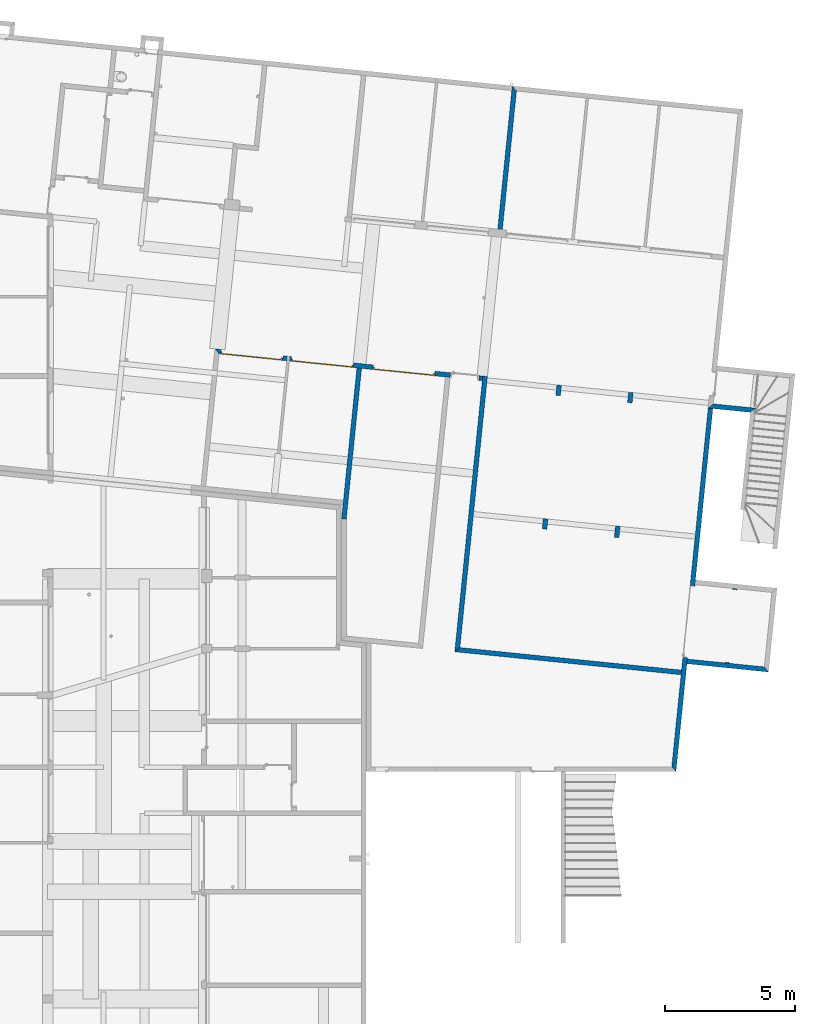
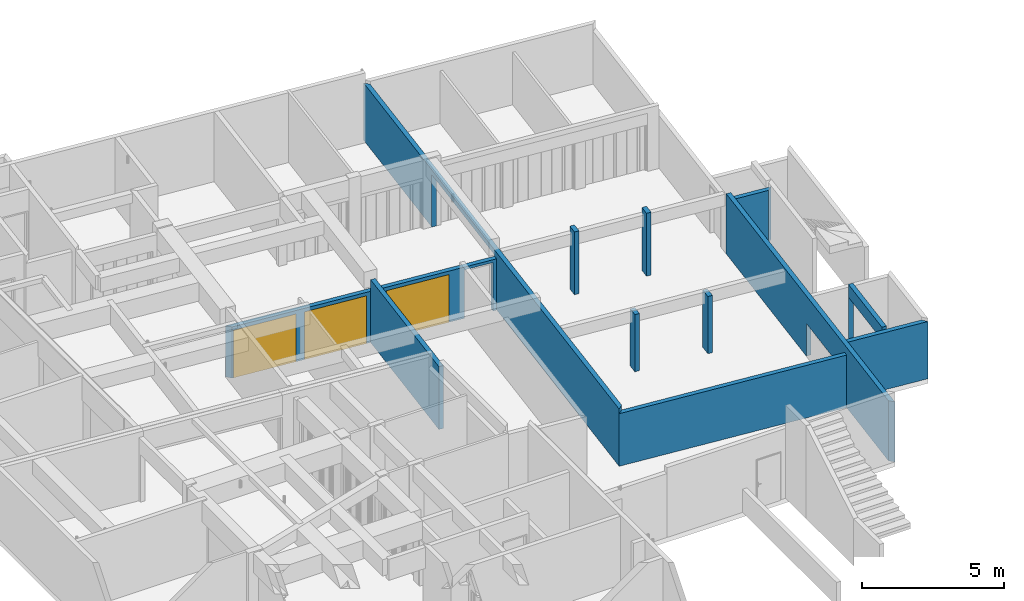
# One storey, part 16 of 41: 12 walls, 3 doors, 7 openings.
"""IFC2X3 building model written with IfcOpenShell, lengths in millimetres."""

from ifc_helpers import new_model, entity, si_unit, converted_unit, derived_unit, money_unit, direction, frame, origin_with_axes, origin_2d_with_axis, place, context, subcontext, project, spatial, polyline, rectangle, outline, extrude, faceted_brep, source, transform, mapped, material, layer, layer_set, layer_usage, type_object, element, fill, save


model = new_model("IFC2X3")

# Units and contexts
model_context = context("Model", 3, precision=0.01, world=origin_with_axes(), true_north=direction((0.0, 1.0)))
body_context = subcontext(model_context, "Body", "Model", "MODEL_VIEW")
ifc_project = project(units=[si_unit("LENGTHUNIT", "METRE", prefix="MILLI"), si_unit("AREAUNIT", "SQUARE_METRE"), si_unit("VOLUMEUNIT", "CUBIC_METRE"), converted_unit("PLANEANGLEUNIT", "DEGREE", entity("IfcPlaneAngleMeasure", 0.0174532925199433), si_unit("PLANEANGLEUNIT", "RADIAN"), dimensions=[0, 0, 0, 0, 0, 0, 0]), money_unit("USD"), converted_unit("TIMEUNIT", "Year", entity("IfcTimeMeasure", 31557600.0), si_unit("TIMEUNIT", "SECOND"), dimensions=[0, 0, 1, 0, 0, 0, 0]), si_unit("MASSUNIT", "GRAM", prefix="KILO"), si_unit("THERMODYNAMICTEMPERATUREUNIT", "DEGREE_CELSIUS"), si_unit("LUMINOUSINTENSITYUNIT", "LUMEN"), si_unit("ENERGYUNIT", "JOULE", prefix="MEGA"), derived_unit("THERMALCONDUCTANCEUNIT", [(si_unit("POWERUNIT", "WATT"), 1), (si_unit("LENGTHUNIT", "METRE"), -1), (si_unit("THERMODYNAMICTEMPERATUREUNIT", "KELVIN"), -1)]), derived_unit("SPECIFICHEATCAPACITYUNIT", [(si_unit("ENERGYUNIT", "JOULE"), 1), (si_unit("MASSUNIT", "GRAM", prefix="KILO"), -1), (si_unit("THERMODYNAMICTEMPERATUREUNIT", "KELVIN"), -1)]), derived_unit("MASSDENSITYUNIT", [(si_unit("MASSUNIT", "GRAM", prefix="KILO"), 1), (si_unit("VOLUMEUNIT", "CUBIC_METRE"), -1)])], contexts=[model_context])

# Site, building, storey
site_placement = place(None, origin_with_axes())
site = spatial("IfcSite", under=ifc_project, at=site_placement, Name="Site", CompositionType="ELEMENT")
building_placement = place(site_placement, origin_with_axes())
building = spatial("IfcBuilding", under=site, at=building_placement, Name="Bâtiment", CompositionType="ELEMENT")
storey_placement = place(building_placement, origin_with_axes())
storey = spatial("IfcBuildingStorey", under=building, at=storey_placement, Name="sousol", CompositionType="ELEMENT", Elevation=0.0)

# Walls
ifc_material = material(Name="Parpaing 314940890")
ifc_layer = layer(ifc_material, 180.0, ventilated="UNKNOWN")
ifc_layer_set = layer_set([ifc_layer], Name="Beton  18 0170347028")
ifc_layer_usage_1 = layer_usage(ifc_layer_set, "AXIS2", "NEGATIVE", 90.0)
wall_type = type_object("IfcWallType", Name="Beton  18 0170347028 180", PredefinedType="NOTDEFINED")
wall_1_placement = place(storey_placement, frame((2241773.094289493, -618170.938408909, 0.0), z_axis=(0.0, 0.0, 1.0), x_axis=(0.1008361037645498, 0.9949030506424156, 0.0)))
element("IfcWallStandardCase", 1, at=wall_1_placement, inside=storey, type_object=wall_type, material=ifc_layer_usage_1, Name="Mur-132", context=body_context, shape_type="SweptSolid", body=[
    extrude(outline(polyline([(0.0, -90.00000000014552), (399.9999999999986, -90.00000000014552), (400.0000000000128, 89.99999999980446), (0.0, 89.99999999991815), (0.0, -90.00000000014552)])), origin_with_axes(), (0.0, 0.0, 1.0), 2700.0),
])
ifc_layer_usage_2 = layer_usage(ifc_layer_set, "AXIS2", "NEGATIVE", 0.0)
wall_2_placement = place(storey_placement, frame((2243942.273763, -623643.83393361, 0.0), z_axis=(0.0, 0.0, 1.0), x_axis=(0.1008361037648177, 0.9949030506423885, 0.0)))
element("IfcWallStandardCase", 2, at=wall_2_placement, inside=storey, type_object=wall_type, material=ifc_layer_usage_2, Name="Mur-132", context=body_context, shape_type="SweptSolid", body=[
    extrude(outline(polyline([(0.0, -179.99999999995), (442.3270255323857, -179.99999999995), (442.3270255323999, 0.0), (0.0, 0.0), (0.0, -179.99999999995)])), origin_with_axes(), (0.0, 0.0, 1.0), 2459.999999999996),
])

# Wall, openings, doors
ifc_layer_usage_3 = layer_usage(ifc_layer_set, "AXIS2", "POSITIVE", 0.0)
wall_3_placement = place(storey_placement, frame((2239044.524593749, -617438.4547941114, 0.0), z_axis=(0.0, 0.0, 1.0), x_axis=(-0.9948759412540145, 0.1011032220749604, 0.0)))
wall_3 = element("IfcWallStandardCase", 3, at=wall_3_placement, inside=storey, type_object=wall_type, material=ifc_layer_usage_3, Name="Mur-132", context=body_context, shape_type="SweptSolid", body=[
    extrude(outline(polyline([(179.9999999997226, 0.0), (10573.12216969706, 0.0), (10393.12216969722, 179.9999999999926), (179.9999999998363, 179.9999999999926), (179.9999999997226, 0.0)])), origin_with_axes(), (0.0, 0.0, 1.0), 2200.0),
])
opening_1_placement = place(wall_3_placement, frame((6397.227876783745, 0.0, 0.0), z_axis=(0.0, 0.0, 1.0), x_axis=(1.0, 0.0, 0.0)))
opening_1 = element("IfcOpeningElement", 4, at=opening_1_placement, cuts=wall_3, Name="Por-296", context=body_context, shape_type="SweptSolid", body=[
    extrude(rectangle(XDim=2400.000000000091, YDim=2050.0, at=origin_2d_with_axis()), frame((0.0, 180.0000000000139, 1025.0), z_axis=(0.0, -1.0, 0.0), x_axis=(1.0, 0.0, 0.0)), (0.0, 0.0, -1.0), 180.0),
    extrude(rectangle(XDim=2400.000000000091, YDim=2050.0, at=origin_2d_with_axis()), frame((0.0, 179.9999999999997, 1025.0), z_axis=(0.0, 1.0, 0.0), x_axis=(1.0, 0.0, 0.0)), (0.0, 0.0, -1.0), 180.0),
])
opening_2_placement = place(wall_3_placement, frame((9134.602929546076, 0.0, 0.0), z_axis=(0.0, 0.0, 1.0), x_axis=(1.0, 0.0, 0.0)))
opening_2 = element("IfcOpeningElement", 5, at=opening_2_placement, cuts=wall_3, Name="Por-296", context=body_context, shape_type="SweptSolid", body=[
    extrude(rectangle(XDim=2399.999999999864, YDim=2050.0, at=origin_2d_with_axis()), frame((1.13686837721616e-10, 180.0000000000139, 1025.0), z_axis=(0.0, -1.0, 0.0), x_axis=(1.0, 0.0, 0.0)), (0.0, 0.0, -1.0), 180.0),
    extrude(rectangle(XDim=2399.999999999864, YDim=2050.0, at=origin_2d_with_axis()), frame((1.13686837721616e-10, 179.9999999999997, 1025.0), z_axis=(0.0, 1.0, 0.0), x_axis=(1.0, 0.0, 0.0)), (0.0, 0.0, -1.0), 180.0),
])
opening_3_placement = place(wall_3_placement, frame((874.9999999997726, 0.0, 0.0), z_axis=(0.0, 0.0, 1.0), x_axis=(1.0, 0.0, 0.0)))
element("IfcOpeningElement", 6, at=opening_3_placement, cuts=wall_3, Name="Por-295", context=body_context, shape_type="SweptSolid", body=[
    extrude(rectangle(XDim=1109.999992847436, YDim=2080.0, at=origin_2d_with_axis()), frame((3.576360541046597e-06, 179.9999999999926, 1040.0), z_axis=(0.0, -1.0, 0.0), x_axis=(-1.0, 0.0, 0.0)), (0.0, 0.0, 1.0), 360.0),
])
opening_4_placement = place(wall_3_placement, frame((3226.390804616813, 0.0, 0.0), z_axis=(0.0, 0.0, 1.0), x_axis=(1.0, 0.0, 0.0)))
opening_4 = element("IfcOpeningElement", 7, at=opening_4_placement, cuts=wall_3, Name="Por-296", context=body_context, shape_type="SweptSolid", body=[
    extrude(rectangle(XDim=2399.999999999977, YDim=2050.0, at=origin_2d_with_axis()), frame((0.0, 179.9999999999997, 1025.0), z_axis=(0.0, -1.0, 0.0), x_axis=(1.0, 0.0, 0.0)), (0.0, 0.0, -1.0), 180.0),
    extrude(rectangle(XDim=2399.999999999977, YDim=2050.0, at=origin_2d_with_axis()), frame((0.0, 179.9999999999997, 1025.0), z_axis=(0.0, 1.0, 0.0), x_axis=(1.0, 0.0, 0.0)), (0.0, 0.0, -1.0), 180.0),
])
door_style = type_object("IfcDoorStyle", Name="P_garage 1", ConstructionType="NOTDEFINED", OperationType="NOTDEFINED", ParameterTakesPrecedence=False, Sizeable=False)
shared_shape = source(origin_with_axes(), body_context, "Body", "Brep", [
    faceted_brep([(1200.0, 0.0, 0.0), (1200.0, -99.99999999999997, 0.0), (1150.0, -99.99999999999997, 0.0), (1150.0, 0.0, 0.0), (1200.0, 0.0, 2050.0), (1200.0, -99.99999999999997, 2050.0), (-1200.0, -99.99999999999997, 2050.0), (-1200.0, -99.99999999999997, 0.0), (-1150.0, -99.99999999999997, 0.0), (-1150.0, -99.99999999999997, 2000.0), (1150.0, -99.99999999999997, 2000.0), (1150.0, 0.0, 2000.0), (-1150.0, 0.0, 2000.0), (-1150.0, 0.0, 0.0), (-1200.0, 0.0, 0.0), (-1200.0, 0.0, 2050.0)], [[[0, 1, 2, 3]], [[4, 5, 1, 0]], [[1, 5, 6, 7, 8, 9, 10, 2]], [[3, 2, 10, 11]], [[0, 3, 11, 12, 13, 14, 15, 4]], [[15, 6, 5, 4]], [[14, 7, 6, 15]], [[13, 8, 7, 14]], [[12, 9, 8, 13]], [[11, 10, 9, 12]]]),
    faceted_brep([(1069.130434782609, -39.99999999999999, 0.0), (1069.130434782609, -39.99999999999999, 2000.0), (1069.130434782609, -26.66666666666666, 2000.0), (1069.130434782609, -26.66666666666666, 0.0), (1150.0, -39.99999999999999, 0.0), (1150.0, -39.99999999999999, 2000.0), (1150.0, -26.66666666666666, 2000.0), (1150.0, -26.66666666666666, 0.0)], [[[0, 1, 2, 3]], [[0, 4, 5, 1]], [[1, 5, 6, 2]], [[3, 2, 6, 7]], [[4, 0, 3, 7]], [[5, 4, 7, 6]]]),
    faceted_brep([(968.2608695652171, -39.99999999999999, 0.0), (968.2608695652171, -39.99999999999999, 2000.0), (968.2608695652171, -26.66666666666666, 2000.0), (968.2608695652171, -26.66666666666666, 0.0), (1049.130434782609, -39.99999999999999, 0.0), (1049.130434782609, -39.99999999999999, 2000.0), (1049.130434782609, -26.66666666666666, 2000.0), (1049.130434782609, -26.66666666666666, 0.0)], [[[0, 1, 2, 3]], [[0, 4, 5, 1]], [[1, 5, 6, 2]], [[3, 2, 6, 7]], [[4, 0, 3, 7]], [[5, 4, 7, 6]]]),
    faceted_brep([(867.3913043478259, -39.99999999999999, 0.0), (867.3913043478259, -39.99999999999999, 2000.0), (867.3913043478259, -26.66666666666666, 2000.0), (867.3913043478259, -26.66666666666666, 0.0), (948.260869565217, -39.99999999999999, 0.0), (948.260869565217, -39.99999999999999, 2000.0), (948.260869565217, -26.66666666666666, 2000.0), (948.260869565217, -26.66666666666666, 0.0)], [[[0, 1, 2, 3]], [[0, 4, 5, 1]], [[1, 5, 6, 2]], [[3, 2, 6, 7]], [[4, 0, 3, 7]], [[5, 4, 7, 6]]]),
    faceted_brep([(766.5217391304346, -39.99999999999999, 0.0), (766.5217391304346, -39.99999999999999, 2000.0), (766.5217391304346, -26.66666666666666, 2000.0), (766.5217391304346, -26.66666666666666, 0.0), (847.3913043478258, -39.99999999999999, 0.0), (847.3913043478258, -39.99999999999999, 2000.0), (847.3913043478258, -26.66666666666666, 2000.0), (847.3913043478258, -26.66666666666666, 0.0)], [[[0, 1, 2, 3]], [[0, 4, 5, 1]], [[1, 5, 6, 2]], [[3, 2, 6, 7]], [[4, 0, 3, 7]], [[5, 4, 7, 6]]]),
    faceted_brep([(665.6521739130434, -39.99999999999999, 0.0), (665.6521739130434, -39.99999999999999, 2000.0), (665.6521739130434, -26.66666666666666, 2000.0), (665.6521739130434, -26.66666666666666, 0.0), (746.5217391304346, -39.99999999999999, 0.0), (746.5217391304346, -39.99999999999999, 2000.0), (746.5217391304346, -26.66666666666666, 2000.0), (746.5217391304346, -26.66666666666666, 0.0)], [[[0, 1, 2, 3]], [[0, 4, 5, 1]], [[1, 5, 6, 2]], [[3, 2, 6, 7]], [[4, 0, 3, 7]], [[5, 4, 7, 6]]]),
    faceted_brep([(564.7826086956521, -39.99999999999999, 0.0), (564.7826086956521, -39.99999999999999, 2000.0), (564.7826086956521, -26.66666666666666, 2000.0), (564.7826086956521, -26.66666666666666, 0.0), (645.6521739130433, -39.99999999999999, 0.0), (645.6521739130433, -39.99999999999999, 2000.0), (645.6521739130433, -26.66666666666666, 2000.0), (645.6521739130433, -26.66666666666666, 0.0)], [[[0, 1, 2, 3]], [[0, 4, 5, 1]], [[1, 5, 6, 2]], [[3, 2, 6, 7]], [[4, 0, 3, 7]], [[5, 4, 7, 6]]]),
    faceted_brep([(463.9130434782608, -39.99999999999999, 0.0), (463.9130434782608, -39.99999999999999, 2000.0), (463.9130434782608, -26.66666666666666, 2000.0), (463.9130434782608, -26.66666666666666, 0.0), (544.782608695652, -39.99999999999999, 0.0), (544.782608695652, -39.99999999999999, 2000.0), (544.782608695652, -26.66666666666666, 2000.0), (544.782608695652, -26.66666666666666, 0.0)], [[[0, 1, 2, 3]], [[0, 4, 5, 1]], [[1, 5, 6, 2]], [[3, 2, 6, 7]], [[4, 0, 3, 7]], [[5, 4, 7, 6]]]),
    faceted_brep([(363.0434782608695, -39.99999999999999, 0.0), (363.0434782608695, -39.99999999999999, 2000.0), (363.0434782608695, -26.66666666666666, 2000.0), (363.0434782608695, -26.66666666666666, 0.0), (443.9130434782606, -39.99999999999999, 0.0), (443.9130434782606, -39.99999999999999, 2000.0), (443.9130434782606, -26.66666666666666, 2000.0), (443.9130434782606, -26.66666666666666, 0.0)], [[[0, 1, 2, 3]], [[0, 4, 5, 1]], [[1, 5, 6, 2]], [[3, 2, 6, 7]], [[4, 0, 3, 7]], [[5, 4, 7, 6]]]),
    faceted_brep([(262.1739130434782, -39.99999999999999, 0.0), (262.1739130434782, -39.99999999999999, 2000.0), (262.1739130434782, -26.66666666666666, 2000.0), (262.1739130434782, -26.66666666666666, 0.0), (343.0434782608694, -39.99999999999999, 0.0), (343.0434782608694, -39.99999999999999, 2000.0), (343.0434782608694, -26.66666666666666, 2000.0), (343.0434782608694, -26.66666666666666, 0.0)], [[[0, 1, 2, 3]], [[0, 4, 5, 1]], [[1, 5, 6, 2]], [[3, 2, 6, 7]], [[4, 0, 3, 7]], [[5, 4, 7, 6]]]),
    faceted_brep([(161.3043478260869, -39.99999999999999, 0.0), (161.3043478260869, -39.99999999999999, 2000.0), (161.3043478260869, -26.66666666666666, 2000.0), (161.3043478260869, -26.66666666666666, 0.0), (242.1739130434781, -39.99999999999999, 0.0), (242.1739130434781, -39.99999999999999, 2000.0), (242.1739130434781, -26.66666666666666, 2000.0), (242.1739130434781, -26.66666666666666, 0.0)], [[[0, 1, 2, 3]], [[0, 4, 5, 1]], [[1, 5, 6, 2]], [[3, 2, 6, 7]], [[4, 0, 3, 7]], [[5, 4, 7, 6]]]),
    faceted_brep([(60.43478260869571, -39.99999999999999, 0.0), (60.43478260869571, -39.99999999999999, 2000.0), (60.43478260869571, -26.66666666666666, 2000.0), (60.43478260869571, -26.66666666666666, 0.0), (141.3043478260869, -39.99999999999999, 0.0), (141.3043478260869, -39.99999999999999, 2000.0), (141.3043478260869, -26.66666666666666, 2000.0), (141.3043478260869, -26.66666666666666, 0.0)], [[[0, 1, 2, 3]], [[0, 4, 5, 1]], [[1, 5, 6, 2]], [[3, 2, 6, 7]], [[4, 0, 3, 7]], [[5, 4, 7, 6]]]),
    faceted_brep([(-40.43478260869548, -39.99999999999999, 0.0), (-40.43478260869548, -39.99999999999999, 2000.0), (-40.43478260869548, -26.66666666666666, 2000.0), (-40.43478260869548, -26.66666666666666, 0.0), (40.4347826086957, -39.99999999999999, 0.0), (40.4347826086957, -39.99999999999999, 2000.0), (40.4347826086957, -26.66666666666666, 2000.0), (40.4347826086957, -26.66666666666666, 0.0)], [[[0, 1, 2, 3]], [[0, 4, 5, 1]], [[1, 5, 6, 2]], [[3, 2, 6, 7]], [[4, 0, 3, 7]], [[5, 4, 7, 6]]]),
    faceted_brep([(-141.3043478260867, -39.99999999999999, 0.0), (-141.3043478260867, -39.99999999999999, 2000.0), (-141.3043478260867, -26.66666666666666, 2000.0), (-141.3043478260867, -26.66666666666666, 0.0), (-60.43478260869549, -39.99999999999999, 0.0), (-60.43478260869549, -39.99999999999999, 2000.0), (-60.43478260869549, -26.66666666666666, 2000.0), (-60.43478260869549, -26.66666666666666, 0.0)], [[[0, 1, 2, 3]], [[0, 4, 5, 1]], [[1, 5, 6, 2]], [[3, 2, 6, 7]], [[4, 0, 3, 7]], [[5, 4, 7, 6]]]),
    faceted_brep([(-242.1739130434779, -39.99999999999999, 0.0), (-242.1739130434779, -39.99999999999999, 2000.0), (-242.1739130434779, -26.66666666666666, 2000.0), (-242.1739130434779, -26.66666666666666, 0.0), (-161.3043478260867, -39.99999999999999, 0.0), (-161.3043478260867, -39.99999999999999, 2000.0), (-161.3043478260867, -26.66666666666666, 2000.0), (-161.3043478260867, -26.66666666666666, 0.0)], [[[0, 1, 2, 3]], [[0, 4, 5, 1]], [[1, 5, 6, 2]], [[3, 2, 6, 7]], [[4, 0, 3, 7]], [[5, 4, 7, 6]]]),
    faceted_brep([(-343.0434782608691, -39.99999999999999, 0.0), (-343.0434782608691, -39.99999999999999, 2000.0), (-343.0434782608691, -26.66666666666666, 2000.0), (-343.0434782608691, -26.66666666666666, 0.0), (-262.1739130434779, -39.99999999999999, 0.0), (-262.1739130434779, -39.99999999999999, 2000.0), (-262.1739130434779, -26.66666666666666, 2000.0), (-262.1739130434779, -26.66666666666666, 0.0)], [[[0, 1, 2, 3]], [[0, 4, 5, 1]], [[1, 5, 6, 2]], [[3, 2, 6, 7]], [[4, 0, 3, 7]], [[5, 4, 7, 6]]]),
    faceted_brep([(-443.9130434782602, -39.99999999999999, 0.0), (-443.9130434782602, -39.99999999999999, 2000.0), (-443.9130434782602, -26.66666666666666, 2000.0), (-443.9130434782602, -26.66666666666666, 0.0), (-363.0434782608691, -39.99999999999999, 0.0), (-363.0434782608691, -39.99999999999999, 2000.0), (-363.0434782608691, -26.66666666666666, 2000.0), (-363.0434782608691, -26.66666666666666, 0.0)], [[[0, 1, 2, 3]], [[0, 4, 5, 1]], [[1, 5, 6, 2]], [[3, 2, 6, 7]], [[4, 0, 3, 7]], [[5, 4, 7, 6]]]),
    faceted_brep([(-544.7826086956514, -39.99999999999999, 0.0), (-544.7826086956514, -39.99999999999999, 2000.0), (-544.7826086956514, -26.66666666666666, 2000.0), (-544.7826086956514, -26.66666666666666, 0.0), (-463.9130434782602, -39.99999999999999, 0.0), (-463.9130434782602, -39.99999999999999, 2000.0), (-463.9130434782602, -26.66666666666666, 2000.0), (-463.9130434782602, -26.66666666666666, 0.0)], [[[0, 1, 2, 3]], [[0, 4, 5, 1]], [[1, 5, 6, 2]], [[3, 2, 6, 7]], [[4, 0, 3, 7]], [[5, 4, 7, 6]]]),
    faceted_brep([(-645.6521739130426, -39.99999999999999, 0.0), (-645.6521739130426, -39.99999999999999, 2000.0), (-645.6521739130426, -26.66666666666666, 2000.0), (-645.6521739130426, -26.66666666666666, 0.0), (-564.7826086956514, -39.99999999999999, 0.0), (-564.7826086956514, -39.99999999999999, 2000.0), (-564.7826086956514, -26.66666666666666, 2000.0), (-564.7826086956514, -26.66666666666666, 0.0)], [[[0, 1, 2, 3]], [[0, 4, 5, 1]], [[1, 5, 6, 2]], [[3, 2, 6, 7]], [[4, 0, 3, 7]], [[5, 4, 7, 6]]]),
    faceted_brep([(-746.5217391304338, -39.99999999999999, 0.0), (-746.5217391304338, -39.99999999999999, 2000.0), (-746.5217391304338, -26.66666666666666, 2000.0), (-746.5217391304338, -26.66666666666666, 0.0), (-665.6521739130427, -39.99999999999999, 0.0), (-665.6521739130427, -39.99999999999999, 2000.0), (-665.6521739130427, -26.66666666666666, 2000.0), (-665.6521739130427, -26.66666666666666, 0.0)], [[[0, 1, 2, 3]], [[0, 4, 5, 1]], [[1, 5, 6, 2]], [[3, 2, 6, 7]], [[4, 0, 3, 7]], [[5, 4, 7, 6]]]),
    faceted_brep([(-847.391304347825, -39.99999999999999, 0.0), (-847.391304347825, -39.99999999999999, 2000.0), (-847.391304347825, -26.66666666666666, 2000.0), (-847.391304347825, -26.66666666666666, 0.0), (-766.5217391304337, -39.99999999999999, 0.0), (-766.5217391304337, -39.99999999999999, 2000.0), (-766.5217391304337, -26.66666666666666, 2000.0), (-766.5217391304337, -26.66666666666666, 0.0)], [[[0, 1, 2, 3]], [[0, 4, 5, 1]], [[1, 5, 6, 2]], [[3, 2, 6, 7]], [[4, 0, 3, 7]], [[5, 4, 7, 6]]]),
    faceted_brep([(-948.2608695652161, -39.99999999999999, 0.0), (-948.2608695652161, -39.99999999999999, 2000.0), (-948.2608695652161, -26.66666666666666, 2000.0), (-948.2608695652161, -26.66666666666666, 0.0), (-867.391304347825, -39.99999999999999, 0.0), (-867.391304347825, -39.99999999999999, 2000.0), (-867.391304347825, -26.66666666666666, 2000.0), (-867.391304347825, -26.66666666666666, 0.0)], [[[0, 1, 2, 3]], [[0, 4, 5, 1]], [[1, 5, 6, 2]], [[3, 2, 6, 7]], [[4, 0, 3, 7]], [[5, 4, 7, 6]]]),
    faceted_brep([(-1049.130434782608, -39.99999999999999, 0.0), (-1049.130434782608, -39.99999999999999, 2000.0), (-1049.130434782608, -26.66666666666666, 2000.0), (-1049.130434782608, -26.66666666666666, 0.0), (-968.2608695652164, -39.99999999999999, 0.0), (-968.2608695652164, -39.99999999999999, 2000.0), (-968.2608695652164, -26.66666666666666, 2000.0), (-968.2608695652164, -26.66666666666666, 0.0)], [[[0, 1, 2, 3]], [[0, 4, 5, 1]], [[1, 5, 6, 2]], [[3, 2, 6, 7]], [[4, 0, 3, 7]], [[5, 4, 7, 6]]]),
    faceted_brep([(-1149.999999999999, -39.99999999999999, 0.0), (-1149.999999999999, -39.99999999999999, 2000.0), (-1149.999999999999, -26.66666666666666, 2000.0), (-1149.999999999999, -26.66666666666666, 0.0), (-1069.130434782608, -39.99999999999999, 0.0), (-1069.130434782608, -39.99999999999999, 2000.0), (-1069.130434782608, -26.66666666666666, 2000.0), (-1069.130434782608, -26.66666666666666, 0.0)], [[[0, 1, 2, 3]], [[0, 4, 5, 1]], [[1, 5, 6, 2]], [[3, 2, 6, 7]], [[4, 0, 3, 7]], [[5, 4, 7, 6]]]),
    faceted_brep([(1150.0, -26.66666666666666, 0.0), (-1150.0, -26.66666666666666, 0.0), (-1150.0, 0.0, 0.0), (1150.0, 0.0, 0.0), (1150.0, -26.66666666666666, 2000.0), (-1150.0, -26.66666666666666, 2000.0), (-1150.0, 0.0, 2000.0), (1150.0, 0.0, 2000.0)], [[[0, 1, 2, 3]], [[0, 4, 5, 1]], [[1, 5, 6, 2]], [[3, 2, 6, 7]], [[4, 0, 3, 7]], [[5, 4, 7, 6]]]),
])
door_1_placement = place(opening_2_placement, frame((-1199.999999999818, 0.0, 0.0), z_axis=(0.0, 0.0, 1.0), x_axis=(1.0, 0.0, 0.0)))
door_1 = element("IfcDoor", 8, at=door_1_placement, inside=storey, type_object=door_style, Name="Por-296", OverallHeight=2050.0, OverallWidth=2400.0, context=body_context, shape_type="MappedRepresentation", body=[
    mapped(shared_shape, transform((1200.000000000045, 179.9999999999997, 0.0))),
])
fill(opening_2, door_1)
door_2_placement = place(opening_1_placement, frame((-1199.999999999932, 0.0, 0.0), z_axis=(0.0, 0.0, 1.0), x_axis=(1.0, 0.0, 0.0)))
door_2 = element("IfcDoor", 9, at=door_2_placement, inside=storey, type_object=door_style, Name="Por-296", OverallHeight=2050.0, OverallWidth=2400.0, context=body_context, shape_type="MappedRepresentation", body=[
    mapped(shared_shape, transform((1199.999999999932, 179.9999999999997, 0.0))),
])
fill(opening_1, door_2)
door_3_placement = place(opening_4_placement, frame((-1200.000000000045, 0.0, 0.0), z_axis=(0.0, 0.0, 1.0), x_axis=(1.0, 0.0, 0.0)))
door_3 = element("IfcDoor", 10, at=door_3_placement, inside=storey, type_object=door_style, Name="Por-296", OverallHeight=2050.0, OverallWidth=2400.0, context=body_context, shape_type="MappedRepresentation", body=[
    mapped(shared_shape, transform((1200.000000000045, 179.9999999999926, 0.0))),
])
fill(opening_4, door_3)

# Wall, opening
ifc_layer_usage_4 = layer_usage(ifc_layer_set, "AXIS2", "NEGATIVE", 0.0)
wall_4_placement = place(storey_placement, frame((2246141.830082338, -632689.6647523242, 0.0), z_axis=(0.0, 0.0, 1.0), x_axis=(0.1011032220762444, 0.994875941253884, 0.0)))
wall_4 = element("IfcWallStandardCase", 11, at=wall_4_placement, inside=storey, type_object=wall_type, material=ifc_layer_usage_4, Name="Mur-132", context=body_context, shape_type="SweptSolid", body=[
    extrude(outline(polyline([(18.29231084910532, -179.99999999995), (14105.94477791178, -179.99999999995), (14105.90530118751, 1.13686837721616e-10), (180.9270809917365, 0.0), (18.29231084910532, -179.99999999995)])), origin_with_axes(), (0.0, 0.0, 1.0), 2586.039272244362),
])
opening_5_placement = place(wall_4_placement, frame((5828.841814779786, 3.410605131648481e-10, 0.0), z_axis=(0.0, 0.0, 1.0), x_axis=(1.0, 0.0, 0.0)))
element("IfcOpeningElement", 12, at=opening_5_placement, cuts=wall_4, Name="Por-275", context=body_context, shape_type="SweptSolid", body=[
    extrude(rectangle(XDim=2793.345247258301, YDim=1410.000003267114, at=origin_2d_with_axis()), frame((0.0, -180.0000000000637, 704.9999983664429), z_axis=(0.0, 1.0, 0.0), x_axis=(1.0, 0.0, 0.0)), (0.0, 0.0, 1.0), 360.0),
])

# Wall
ifc_layer_usage_5 = layer_usage(ifc_layer_set, "AXIS2", "POSITIVE", 0.0)
wall_5_placement = place(storey_placement, frame((2249734.109019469, -628648.6957104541, 0.0), z_axis=(0.0, 0.0, 1.0), x_axis=(-0.9948759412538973, 0.1011032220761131, 0.0)))
element("IfcWallStandardCase", 13, at=wall_5_placement, inside=storey, type_object=wall_type, material=ifc_layer_usage_5, Name="Mur-132", context=body_context, shape_type="SweptSolid", body=[
    extrude(outline(polyline([(1.13686837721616e-10, 0.0), (2985.31689838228, 0.0), (2985.316898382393, 179.9999999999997), (-179.9999999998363, 179.9999999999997), (1.13686837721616e-10, 0.0)])), origin_with_axes(), (0.0, 0.0, 1.0), 2459.999999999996),
])

# Wall, opening
ifc_layer_usage_6 = layer_usage(ifc_layer_set, "AXIS2", "POSITIVE", 0.0)
wall_6_placement = place(storey_placement, frame((2237962.892106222, -628081.9349625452, 0.0), z_axis=(0.0, 0.0, 1.0), x_axis=(0.1011032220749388, 0.9948759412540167, 0.0)))
wall_6 = element("IfcWallStandardCase", 14, at=wall_6_placement, inside=storey, type_object=wall_type, material=ifc_layer_usage_6, Name="Mur-132", context=body_context, shape_type="SweptSolid", body=[
    extrude(outline(polyline([(180.000000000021, 0.0), (21778.2988803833, 0.0), (21958.29888038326, 179.99999999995), (0.0, 180.0000000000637), (180.000000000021, 0.0)])), origin_with_axes(), (0.0, 0.0, 1.0), 2459.999999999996),
])
opening_6_placement = place(wall_6_placement, frame((13398.29888038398, -1.13686837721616e-10, 0.0), z_axis=(0.0, 0.0, 1.0), x_axis=(1.0, 0.0, 0.0)))
element("IfcOpeningElement", 15, at=opening_6_placement, cuts=wall_6, Name="Por-299", context=body_context, shape_type="SweptSolid", body=[
    extrude(rectangle(XDim=5400.000000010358, YDim=2249.999999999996, at=origin_2d_with_axis()), frame((0.0, 0.0, 1124.999999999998), z_axis=(0.0, 1.0, 0.0), x_axis=(1.0, 0.0, 0.0)), (0.0, 0.0, -1.0), 180.0),
    extrude(rectangle(XDim=5400.000000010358, YDim=2249.999999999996, at=origin_2d_with_axis()), frame((0.0, 0.0, 1124.999999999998), z_axis=(0.0, -1.0, 0.0), x_axis=(1.0, 0.0, 0.0)), (0.0, 0.0, -1.0), 180.0),
])

# Walls
ifc_layer_usage_7 = layer_usage(ifc_layer_set, "AXIS2", "NEGATIVE", 0.0)
wall_7_placement = place(storey_placement, frame((2241160.824519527, -623319.3826919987, 0.0), z_axis=(0.0, 0.0, 1.0), x_axis=(0.1008361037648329, 0.994903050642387, 0.0)))
element("IfcWallStandardCase", 16, at=wall_7_placement, inside=storey, type_object=wall_type, material=ifc_layer_usage_7, Name="Mur-132", context=body_context, shape_type="SweptSolid", body=[
    extrude(outline(polyline([(0.0, -179.99999999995), (400.0000000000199, -179.99999999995), (400.0000000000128, 0.0), (0.0, 0.0), (0.0, -179.99999999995)])), origin_with_axes(), (0.0, 0.0, 1.0), 2459.999999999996),
])
ifc_layer_usage_8 = layer_usage(ifc_layer_set, "AXIS2", "NEGATIVE", 90.0)
wall_8_placement = place(storey_placement, frame((2244541.39304551, -618451.53250742, 0.0), z_axis=(0.0, 0.0, 1.0), x_axis=(0.1008361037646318, 0.9949030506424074, 0.0)))
element("IfcWallStandardCase", 17, at=wall_8_placement, inside=storey, type_object=wall_type, material=ifc_layer_usage_8, Name="Mur-132", context=body_context, shape_type="SweptSolid", body=[
    extrude(outline(polyline([(0.0, -90.00000000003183), (399.9999999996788, -90.00000000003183), (399.9999999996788, 89.99999999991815), (0.0, 90.00000000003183), (0.0, -90.00000000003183)])), origin_with_axes(), (0.0, 0.0, 1.0), 2700.0),
])
ifc_layer_usage_9 = layer_usage(ifc_layer_set, "AXIS2", "POSITIVE", 0.0)
wall_9_placement = place(storey_placement, frame((2249214.506543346, -618642.0773264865, 0.0), z_axis=(0.0, 0.0, 1.0), x_axis=(-0.9948980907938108, 0.1008850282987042, 0.0)))
element("IfcWallStandardCase", 18, at=wall_9_placement, inside=storey, type_object=wall_type, material=ifc_layer_usage_9, Name="Mur-132", context=body_context, shape_type="SweptSolid", body=[
    extrude(outline(polyline([(-180.0000002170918, 0.0), (1459.560613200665, 0.0), (1639.600094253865, 179.9999999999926), (-0.00884097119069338, 179.9999999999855), (-180.0000002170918, 0.0)])), origin_with_axes(), (0.0, 0.0, 1.0), 2260.00000000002),
])
ifc_layer_usage_10 = layer_usage(ifc_layer_set, "AXIS2", "NEGATIVE", 0.0)
wall_10_placement = place(storey_placement, frame((2233414.233344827, -622939.7451060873, 0.0), z_axis=(0.0, 0.0, 1.0), x_axis=(0.1008361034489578, 0.9949030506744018, 0.0)))
element("IfcWallStandardCase", 19, at=wall_10_placement, inside=storey, type_object=wall_type, material=ifc_layer_usage_10, Name="Mur-132", context=body_context, shape_type="SweptSolid", body=[
    extrude(outline(polyline([(9.098436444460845, -180.0000000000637), (5862.293846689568, -180.0000000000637), (5862.342175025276, 0.0), (2.700062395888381e-10, 0.0), (9.098436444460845, -180.0000000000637)])), origin_with_axes(), (0.0, 0.0, 1.0), 2700.0),
])
ifc_layer_usage_11 = layer_usage(ifc_layer_set, "AXIS2", "NEGATIVE", 0.0)
wall_11_placement = place(storey_placement, frame((2246521.695364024, -628951.71434969, 0.0), z_axis=(0.0, 0.0, 1.0), x_axis=(-0.9948759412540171, 0.1011032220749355, 0.0)))
element("IfcWallStandardCase", 20, at=wall_11_placement, inside=storey, type_object=wall_type, material=ifc_layer_usage_11, Name="Mur-132", context=body_context, shape_type="SweptSolid", body=[
    extrude(outline(polyline([(-2.273736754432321e-10, -180.0000000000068), (8602.884945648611, -180.0000000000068), (8782.884945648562, 0.0), (0.0, 0.0), (-2.273736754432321e-10, -180.0000000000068)])), origin_with_axes(), (0.0, 0.0, 1.0), 2259.999999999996),
])

# Wall, opening
ifc_layer_usage_12 = layer_usage(ifc_layer_set, "AXIS2", "NEGATIVE", 0.0)
wall_12_placement = place(storey_placement, frame((2248687.989018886, -625637.8933761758, 0.0), z_axis=(0.0, 0.0, 1.0), x_axis=(-0.1011032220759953, -0.9948759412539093, 0.0)))
wall_12 = element("IfcWallStandardCase", 21, at=wall_12_placement, inside=storey, type_object=wall_type, material=ifc_layer_usage_12, Name="Mur-132", context=body_context, shape_type="SweptSolid", body=[
    extrude(outline(polyline([(2.344791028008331e-10, -179.99999999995), (2889.608703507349, -179.99999999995), (2889.608703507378, 1.13686837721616e-10), (2.486899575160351e-10, 0.0), (2.344791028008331e-10, -179.99999999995)])), origin_with_axes(), (0.0, 0.0, 1.0), 2586.039272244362),
])
opening_7_placement = place(wall_12_placement, frame((1449.799881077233, 3.410605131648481e-10, 0.0), z_axis=(0.0, 0.0, 1.0), x_axis=(1.0, 0.0, 0.0)))
element("IfcOpeningElement", 22, at=opening_7_placement, cuts=wall_12, Name="Por-275", context=body_context, shape_type="SweptSolid", body=[
    extrude(rectangle(XDim=2826.747508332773, YDim=2040.0, at=origin_2d_with_axis()), frame((0.0, -180.0000000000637, 1020.0), z_axis=(0.0, 1.0, 0.0), x_axis=(1.0, 0.0, 0.0)), (0.0, 0.0, -1.0), 180.0),
    extrude(rectangle(XDim=2826.747508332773, YDim=2040.0, at=origin_2d_with_axis()), frame((0.0, -180.0000000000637, 1020.0), z_axis=(0.0, -1.0, 0.0), x_axis=(1.0, 0.0, 0.0)), (0.0, 0.0, -1.0), 180.0),
])

save(model, "model.ifc")
